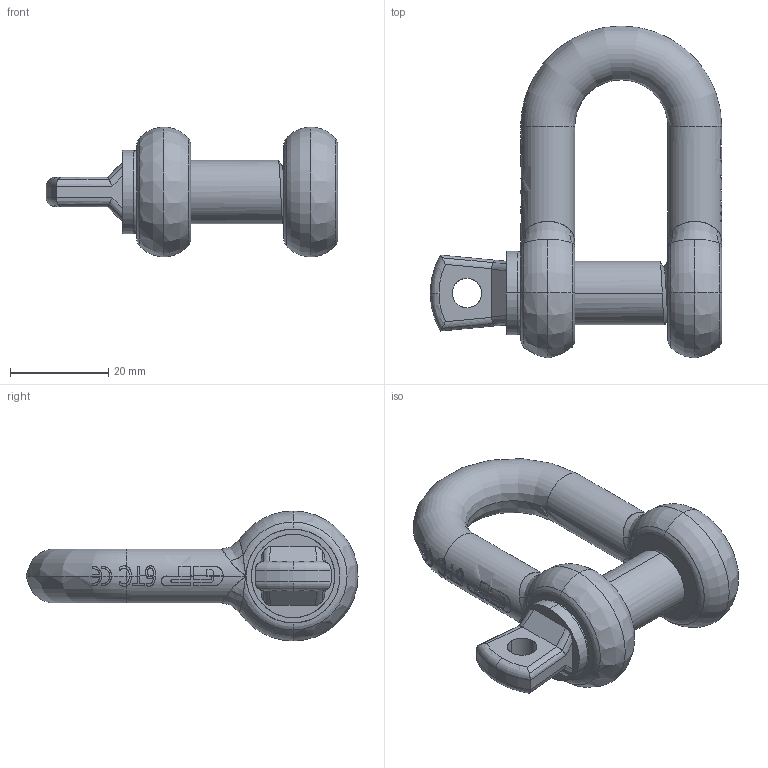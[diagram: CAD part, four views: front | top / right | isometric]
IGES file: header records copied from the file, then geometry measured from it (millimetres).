
Start section: START RECORD GO HERE.
Global section: file name: 1,5.igs; native system: Solidworks 2009      A Version 5 Release 17 ; preprocessor: Solidworks                 ; author: v.b.; organization: P4; date: 20090807.081918; units: millimetre
Bounding box: 59.5 x 67.75 x 26.5 mm (x, y, z)
Surface area: 10097 mm2 (no closed solid volume)
Topology: 0 solids, 0 shells, 350 faces, 2739 edges, 2731 vertices
Faces by surface type: revolution 125, bspline 116, plane 109
